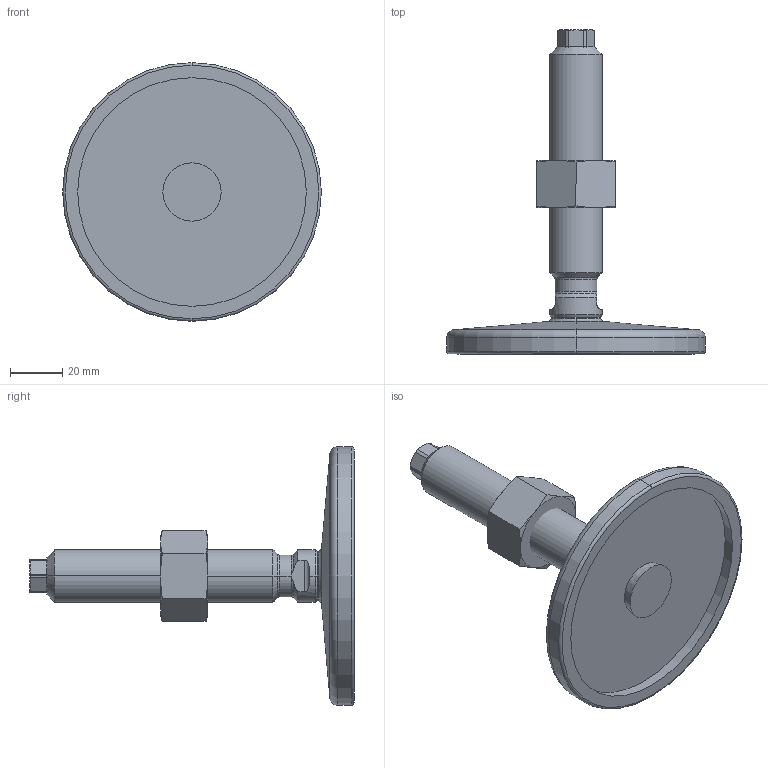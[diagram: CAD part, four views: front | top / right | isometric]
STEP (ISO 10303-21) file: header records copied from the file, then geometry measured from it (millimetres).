
FILE_DESCRIPTION (( 'STEP AP214' ), '1' );
FILE_NAME ('21-100-M20-100-D0-VK.step', '2020-10-02T17:36:57', ( '' ), ( '' ), 'SwSTEP 2.0', 'SolidWorks 2019', '' );
FILE_SCHEMA (( 'AUTOMOTIVE_DESIGN' ));
Length unit declared in the file: millimetre
Products named in the file (4): WB21_Spindel_V^WB21_V_M20-100; 21-100-M20-100-D0-VK; WB21_Fußteller 21^WB21_V_D0-100-R12-B9 (M20); WB4032^WB21_V_M20
Assembly tree (3 placements, depth 2):
  21-100-M20-100-D0-VK
    WB21_Fußteller 21^WB21_V_D0-100-R12-B9 (M20)
    WB21_Spindel_V^WB21_V_M20-100
    WB4032^WB21_V_M20
Bounding box: 99 x 124.02 x 99 mm (x, y, z)
Volume: 96073.6 mm3; surface area: 31048 mm2
Topology: 3 solids, 3 shells, 101 faces, 225 edges, 133 vertices
Faces by surface type: cone 33, plane 29, cylinder 25, torus 10, sphere 4
Entity records: 3164 total; most frequent: CARTESIAN_POINT 737, DIRECTION 492, ORIENTED_EDGE 450, EDGE_CURVE 225, AXIS2_PLACEMENT_3D 212, VERTEX_POINT 133, EDGE_LOOP 106, CIRCLE 105
